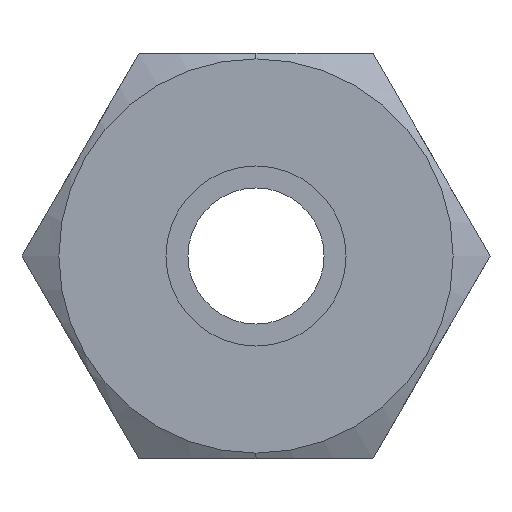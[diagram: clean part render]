
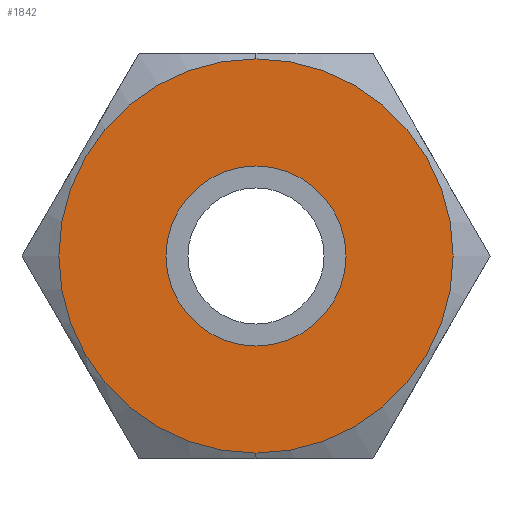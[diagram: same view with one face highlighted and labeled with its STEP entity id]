
A CAD part, left-side view. The second image highlights one B-rep face of the part: STEP entity #1842.
In plain terms, the highlighted planar face has unit normal (-1, 0, 0).
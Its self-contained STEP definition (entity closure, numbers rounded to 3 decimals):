
#531 = DIRECTION ( 'NONE',  ( 0., 0., 1. ) ) ;
#532 = DIRECTION ( 'NONE',  ( -1., 0., 0. ) ) ;
#533 = AXIS2_PLACEMENT_3D ( 'NONE', #541, #532, #531 ) ;
#534 = CIRCLE ( 'NONE', #533, 3.175 ) ;
#541 = CARTESIAN_POINT ( 'NONE',  ( -17.73, 0., 0. ) ) ;
#789 = DIRECTION ( 'NONE',  ( 0., 0., 1. ) ) ;
#790 = DIRECTION ( 'NONE',  ( -1., 0., 0. ) ) ;
#791 = AXIS2_PLACEMENT_3D ( 'NONE', #794, #790, #789 ) ;
#794 = CARTESIAN_POINT ( 'NONE',  ( -17.73, 8.25, 0. ) ) ;
#795 = PLANE ( 'NONE',  #791 ) ;
#796 = FACE_OUTER_BOUND ( 'NONE', #1702, .T. ) ;
#797 = FACE_BOUND ( 'NONE', #1698, .T. ) ;
#820 = CIRCLE ( 'NONE', #854, 6.95 ) ;
#851 = DIRECTION ( 'NONE',  ( 0., 0., 1. ) ) ;
#852 = DIRECTION ( 'NONE',  ( -1., 0., 0. ) ) ;
#853 = CARTESIAN_POINT ( 'NONE',  ( -17.73, 0., 0. ) ) ;
#854 = AXIS2_PLACEMENT_3D ( 'NONE', #853, #852, #851 ) ;
#1387 = CARTESIAN_POINT ( 'NONE',  ( -17.73, 0., 3.175 ) ) ;
#1388 = DIRECTION ( 'NONE',  ( 0., 0., 1. ) ) ;
#1450 = CARTESIAN_POINT ( 'NONE',  ( -17.73, 0., 6.95 ) ) ;
#1451 = DIRECTION ( 'NONE',  ( 0., 0., 1. ) ) ;
#1452 = DIRECTION ( 'NONE',  ( -1., 0., 0. ) ) ;
#1453 = CARTESIAN_POINT ( 'NONE',  ( -17.73, 0., 0. ) ) ;
#1454 = AXIS2_PLACEMENT_3D ( 'NONE', #1453, #1452, #1451 ) ;
#1455 = CIRCLE ( 'NONE', #1454, 6.95 ) ;
#1484 = CARTESIAN_POINT ( 'NONE',  ( -17.73, 0., -6.95 ) ) ;
#1573 = DIRECTION ( 'NONE',  ( -1., 0., 0. ) ) ;
#1574 = CARTESIAN_POINT ( 'NONE',  ( -17.73, 0., 0. ) ) ;
#1575 = AXIS2_PLACEMENT_3D ( 'NONE', #1574, #1573, #1388 ) ;
#1576 = CIRCLE ( 'NONE', #1575, 3.175 ) ;
#1577 = CARTESIAN_POINT ( 'NONE',  ( -17.73, 0., -3.175 ) ) ;
#1698 = EDGE_LOOP ( 'NONE', ( #1699, #1701 ) ) ;
#1699 = ORIENTED_EDGE ( 'NONE', *, *, #1700, .F. ) ;
#1700 = EDGE_CURVE ( 'NONE', #2088, #2085, #534, .T. ) ;
#1701 = ORIENTED_EDGE ( 'NONE', *, *, #2087, .F. ) ;
#1702 = EDGE_LOOP ( 'NONE', ( #1771, #1772 ) ) ;
#1771 = ORIENTED_EDGE ( 'NONE', *, *, #2115, .T. ) ;
#1772 = ORIENTED_EDGE ( 'NONE', *, *, #1773, .T. ) ;
#1773 = EDGE_CURVE ( 'NONE', #2113, #2116, #820, .T. ) ;
#1842 = ADVANCED_FACE ( 'NONE', ( #797, #796 ), #795, .T. ) ;
#2085 = VERTEX_POINT ( 'NONE', #1577 ) ;
#2087 = EDGE_CURVE ( 'NONE', #2085, #2088, #1576, .T. ) ;
#2088 = VERTEX_POINT ( 'NONE', #1387 ) ;
#2113 = VERTEX_POINT ( 'NONE', #1484 ) ;
#2115 = EDGE_CURVE ( 'NONE', #2116, #2113, #1455, .T. ) ;
#2116 = VERTEX_POINT ( 'NONE', #1450 ) ;
